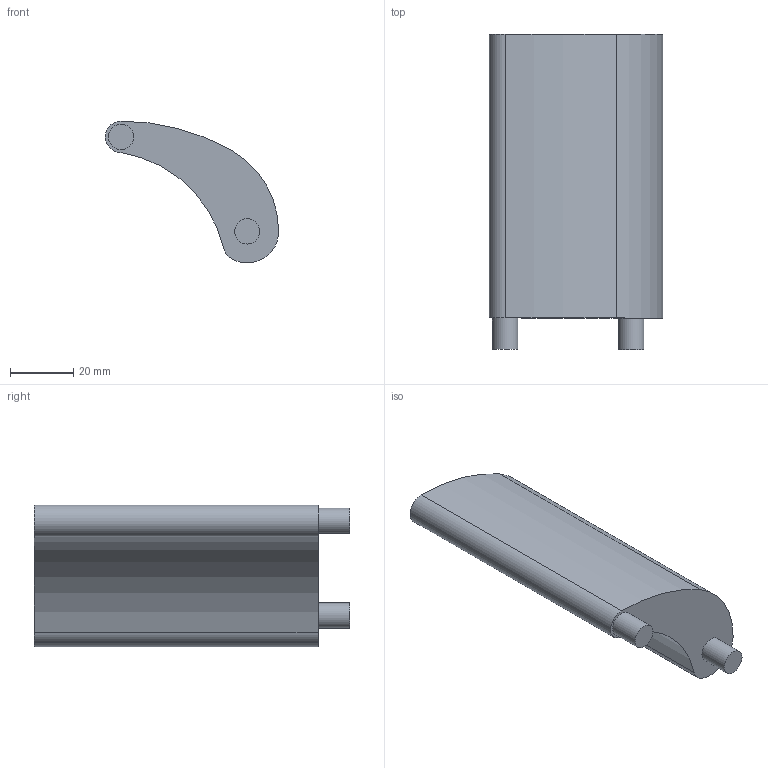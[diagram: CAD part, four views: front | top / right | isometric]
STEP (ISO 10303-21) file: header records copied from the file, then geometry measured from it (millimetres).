
FILE_DESCRIPTION(/* description */ (''),/* implementation_level */ '2;1');
FILE_NAME(/* name */ 'C:\Users\Jaime\Desktop\Universidad\MÁSTER ING. INDUSTRIAL\TFM\CD\PiezaG.stp',/* time_stamp */ '2018-02-15T23:59:18+01:00',/* author */ ('Jaime'),/* organization */ (''),/* preprocessor_version */ 'ST-DEVELOPER v16.5',/* originating_system */ 'Autodesk Inventor 2017',/* authorisation */ '');
FILE_SCHEMA (('AUTOMOTIVE_DESIGN { 1 0 10303 214 3 1 1 }'));
Length unit declared in the file: millimetre
Products named in the file (1): PiezaG
Bounding box: 55 x 100 x 44.99 mm (x, y, z)
Volume: 95754.4 mm3; surface area: 16639.6 mm2
Topology: 1 solids, 1 shells, 12 faces, 24 edges, 16 vertices
Faces by surface type: cylinder 8, plane 4
Full cylindrical faces by diameter (mm): 8 x2
Entity records: 338 total; most frequent: DIRECTION 64, CARTESIAN_POINT 51, ORIENTED_EDGE 44, AXIS2_PLACEMENT_3D 29, EDGE_CURVE 22, EDGE_LOOP 16, CIRCLE 16, VERTEX_POINT 16
